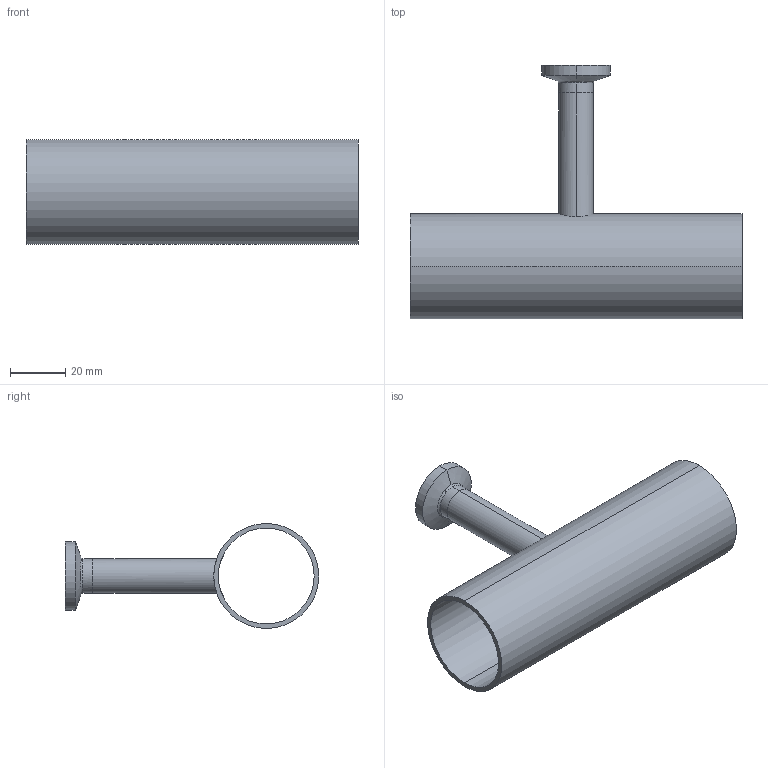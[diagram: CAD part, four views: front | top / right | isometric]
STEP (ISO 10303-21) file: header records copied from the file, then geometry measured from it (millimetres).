
FILE_DESCRIPTION (( 'STEP AP214' ), '1' );
FILE_NAME ('TE7RWWC6L1.5x.5-...STEP', '2016-05-23T07:55:43', ( 'eran' ), ( '' ), 'SwSTEP 2.0', 'SolidWorks 2016', '' );
FILE_SCHEMA (( 'AUTOMOTIVE_DESIGN' ));
Length unit declared in the file: millimetre
Products named in the file (1): TE7RWWC6L1.5x.5-..
Bounding box: 120.6 x 92.05 x 38.1 mm (x, y, z)
Volume: 27102 mm3; surface area: 32712.2 mm2
Topology: 2 solids, 2 shells, 34 faces, 82 edges, 54 vertices
Faces by surface type: cylinder 16, bspline 8, plane 6, cone 4
Entity records: 1311 total; most frequent: CARTESIAN_POINT 455, DIRECTION 182, ORIENTED_EDGE 164, EDGE_CURVE 82, AXIS2_PLACEMENT_3D 81, VERTEX_POINT 54, CIRCLE 54, EDGE_LOOP 42
